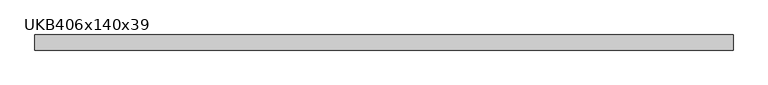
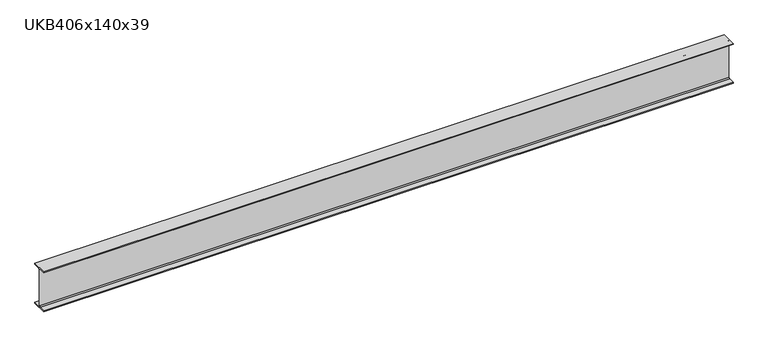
"""IFC4 building model written with IfcOpenShell, lengths in millimetres: beam geometry, UKB-UK Beams : UKB406x140x39."""

from ifc_helpers import new_model, si_unit, point, frame, frame_2d, origin, place, context, project, spatial, polyline, circle_curve, trimmed, segment, composite_curve, outline, extrude, source, transform, mapped, element, save


def ukb406x140x39_9a05f4e8(model_context):
    return source(origin(), model_context, "Body", "SweptSolid", [
        extrude(outline(composite_curve([segment(polyline([(70.9, -190.4), (70.9, -199.0), (-70.9, -199.0), (-70.9, -190.4), (-13.4, -190.4)]), True, "CONTINUOUS"), segment(trimmed(circle_curve(frame_2d((-13.4, -180.2)), 10.2), [point((-13.4, -190.4))], [point((-3.2, -180.2))], True, "CARTESIAN"), True, "CONTINUOUS"), segment(polyline([(-3.2, -180.2), (-3.2, 180.2)]), True, "CONTINUOUS"), segment(trimmed(circle_curve(frame_2d((-13.4, 180.2)), 10.2), [point((-3.2, 180.2))], [point((-13.4, 190.4))], True, "CARTESIAN"), True, "CONTINUOUS"), segment(polyline([(-13.4, 190.4), (-70.9, 190.4), (-70.9, 199.0), (70.9, 199.0), (70.9, 190.4), (13.4, 190.4)]), True, "CONTINUOUS"), segment(trimmed(circle_curve(frame_2d((13.4, 180.2)), 10.2), [point((13.4, 190.4))], [point((3.2, 180.2))], True, "CARTESIAN"), True, "CONTINUOUS"), segment(polyline([(3.2, 180.2), (3.2, -180.2)]), True, "CONTINUOUS"), segment(trimmed(circle_curve(frame_2d((13.4, -180.2)), 10.2), [point((3.2, -180.2))], [point((13.4, -190.4))], True, "CARTESIAN"), True, "CONTINUOUS"), segment(polyline([(13.4, -190.4), (70.9, -190.4)]), True, "CONTINUOUS")], self_intersect=False)), frame((-3264.0, 0.0, 0.0), z_axis=(1.0, 0.0, 0.0), x_axis=(0.0, 1.0, 0.0)), (0.0, 0.0, 1.0), 6528.0),
    ])


if __name__ == "__main__":
    model = new_model("IFC4")
    model_context = context("Model", 3, world=origin())
    ifc_project = project(units=[si_unit("LENGTHUNIT", "METRE", prefix="MILLI")], contexts=[model_context])
    site = spatial("IfcSite", under=ifc_project)
    building = spatial("IfcBuilding", under=site)
    placement = place(None, origin())
    ukb406x140x39_shape = ukb406x140x39_9a05f4e8(model_context)
    element("IfcBeam", 1, ObjectType="UKB-UK Beams : UKB406x140x39", at=placement, inside=building, context=model_context, shape_type="MappedRepresentation", body=[
        mapped(ukb406x140x39_shape, transform((0.0, 0.0, 0.0), x_axis=(1.0, 0.0, 0.0), y_axis=(0.0, 1.0, 0.0), z_axis=(0.0, 0.0, 1.0))),
    ])
    save(model, "model.ifc")
